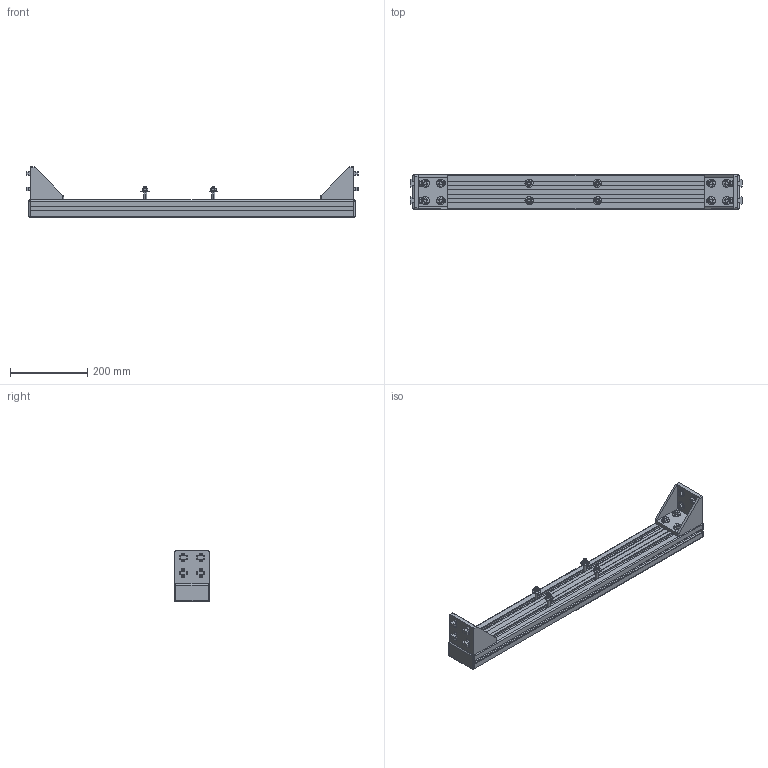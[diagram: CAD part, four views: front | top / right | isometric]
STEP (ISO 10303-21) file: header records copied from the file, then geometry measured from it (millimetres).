
FILE_DESCRIPTION (( 'STEP AP203' ), '1' );
FILE_NAME ('Asutec_75000054.STEP', '2021-11-16T07:31:46', ( '' ), ( '' ), 'SwSTEP 2.0', 'SolidWorks 2020', '' );
FILE_SCHEMA (( 'CONFIG_CONTROL_DESIGN' ));
Length unit declared in the file: millimetre
Products named in the file (1): Asutec_75000054
Bounding box: 857.6 x 90 x 131 mm (x, y, z)
Volume: 2654347 mm3; surface area: 624743.9 mm2
Topology: 7 solids, 7 shells, 1030 faces, 2872 edges, 1832 vertices
Faces by surface type: plane 746, cylinder 192, cone 76, sphere 8, bspline 8
Entity records: 33773 total; most frequent: CARTESIAN_POINT 7723, ORIENTED_EDGE 5728, DIRECTION 5034, EDGE_CURVE 2864, VECTOR 1996, LINE 1996, VERTEX_POINT 1832, AXIS2_PLACEMENT_3D 1519
